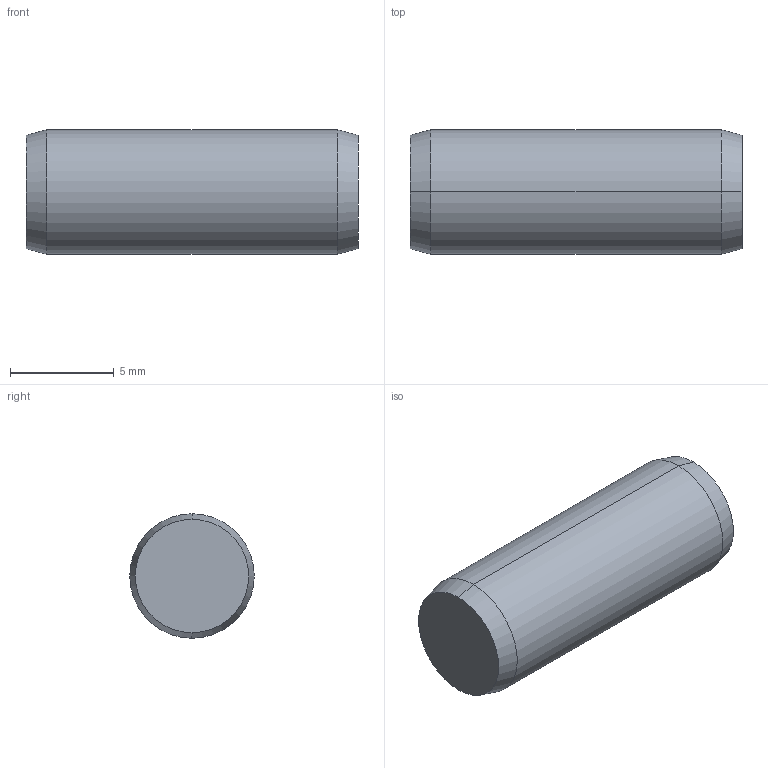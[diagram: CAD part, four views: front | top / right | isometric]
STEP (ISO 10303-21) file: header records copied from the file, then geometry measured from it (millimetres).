
FILE_DESCRIPTION (( 'STEP AP203' ), '1' );
FILE_NAME ('P1206.060-016.step', '2017-06-14T08:20:00', ( 'User' ), ( '' ), 'SwSTEP 2.0', 'SolidWorks 2009', '' );
FILE_SCHEMA (( 'CONFIG_CONTROL_DESIGN' ));
Length unit declared in the file: millimetre
Products named in the file (1): P1206.060-016
Bounding box: 16 x 6 x 6 mm (x, y, z)
Volume: 447.5 mm3; surface area: 348.1 mm2
Topology: 1 solids, 1 shells, 8 faces, 14 edges, 8 vertices
Faces by surface type: cone 4, cylinder 2, plane 2
Entity records: 271 total; most frequent: DIRECTION 40, CARTESIAN_POINT 31, ORIENTED_EDGE 28, AXIS2_PLACEMENT_3D 17, EDGE_CURVE 14, FACE_OUTER_BOUND 8, CIRCLE 8, EDGE_LOOP 8
